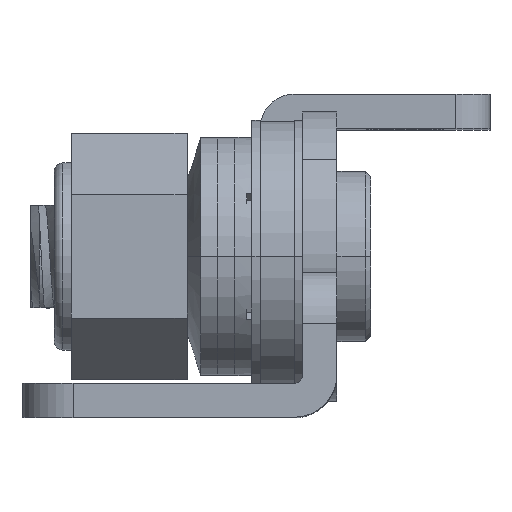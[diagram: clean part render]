
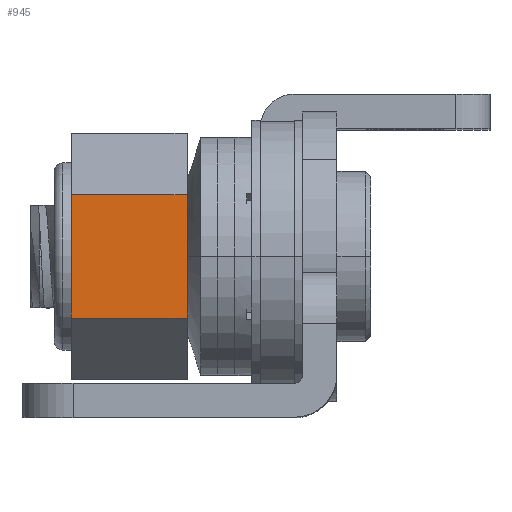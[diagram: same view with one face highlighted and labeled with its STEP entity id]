
A CAD part, top view. The second image highlights one B-rep face of the part: STEP entity #945.
In plain terms, the highlighted planar face has unit normal (0, 0, 1).
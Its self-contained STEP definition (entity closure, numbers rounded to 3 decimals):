
#945 = ADVANCED_FACE ( 'NONE', ( #1445 ), #5104, .T. ) ;
#1068 = EDGE_LOOP ( 'NONE', ( #8615, #7099, #10314, #10938 ) ) ;
#1445 = FACE_OUTER_BOUND ( 'NONE', #1068, .T. ) ;
#1502 = DIRECTION ( 'NONE',  ( 0., 0., 1. ) ) ;
#1559 = VERTEX_POINT ( 'NONE', #9591 ) ;
#1615 = VECTOR ( 'NONE', #7678, 1000. ) ;
#2608 = CARTESIAN_POINT ( 'NONE',  ( 2.9, 5.875, -26.721 ) ) ;
#3021 = CARTESIAN_POINT ( 'NONE',  ( 9.7, 5.875, -26.721 ) ) ;
#3058 = AXIS2_PLACEMENT_3D ( 'NONE', #7895, #1502, #11570 ) ;
#3944 = VERTEX_POINT ( 'NONE', #8371 ) ;
#3999 = DIRECTION ( 'NONE',  ( 0., 1., 0. ) ) ;
#4179 = VERTEX_POINT ( 'NONE', #2608 ) ;
#4402 = CARTESIAN_POINT ( 'NONE',  ( 9.7, 5.875, -26.721 ) ) ;
#4463 = VERTEX_POINT ( 'NONE', #8990 ) ;
#5104 = PLANE ( 'NONE',  #3058 ) ;
#5202 = EDGE_CURVE ( 'NONE', #1559, #3944, #10559, .T. ) ;
#6181 = EDGE_CURVE ( 'NONE', #4463, #1559, #7249, .T. ) ;
#6222 = DIRECTION ( 'NONE',  ( 0., 1., 0. ) ) ;
#6613 = CARTESIAN_POINT ( 'NONE',  ( 2.9, 5.875, -26.721 ) ) ;
#7068 = CARTESIAN_POINT ( 'NONE',  ( 9.7, 13.125, -26.721 ) ) ;
#7099 = ORIENTED_EDGE ( 'NONE', *, *, #8209, .F. ) ;
#7238 = VECTOR ( 'NONE', #8639, 1000. ) ;
#7249 = LINE ( 'NONE', #4402, #11490 ) ;
#7678 = DIRECTION ( 'NONE',  ( -1., 0., 0. ) ) ;
#7895 = CARTESIAN_POINT ( 'NONE',  ( 9.7, 5.875, -26.721 ) ) ;
#8209 = EDGE_CURVE ( 'NONE', #4179, #3944, #11257, .T. ) ;
#8371 = CARTESIAN_POINT ( 'NONE',  ( 2.9, 13.125, -26.721 ) ) ;
#8615 = ORIENTED_EDGE ( 'NONE', *, *, #5202, .T. ) ;
#8639 = DIRECTION ( 'NONE',  ( -1., 0., 0. ) ) ;
#8990 = CARTESIAN_POINT ( 'NONE',  ( 9.7, 5.875, -26.721 ) ) ;
#9534 = LINE ( 'NONE', #3021, #1615 ) ;
#9591 = CARTESIAN_POINT ( 'NONE',  ( 9.7, 13.125, -26.721 ) ) ;
#10314 = ORIENTED_EDGE ( 'NONE', *, *, #10804, .F. ) ;
#10559 = LINE ( 'NONE', #7068, #7238 ) ;
#10804 = EDGE_CURVE ( 'NONE', #4463, #4179, #9534, .T. ) ;
#10938 = ORIENTED_EDGE ( 'NONE', *, *, #6181, .T. ) ;
#10963 = VECTOR ( 'NONE', #3999, 1000. ) ;
#11257 = LINE ( 'NONE', #6613, #10963 ) ;
#11490 = VECTOR ( 'NONE', #6222, 1000. ) ;
#11570 = DIRECTION ( 'NONE',  ( 0., 1., 0. ) ) ;
